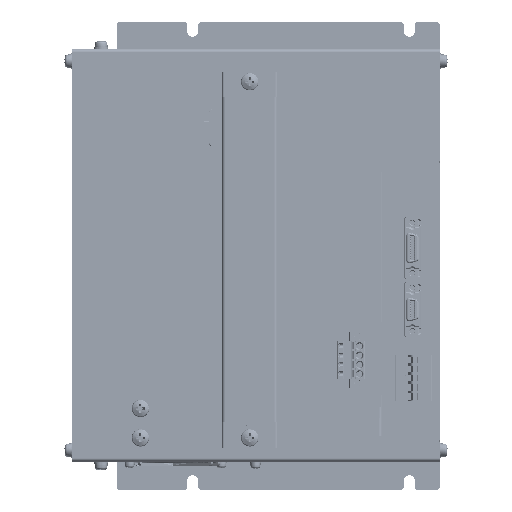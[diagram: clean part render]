
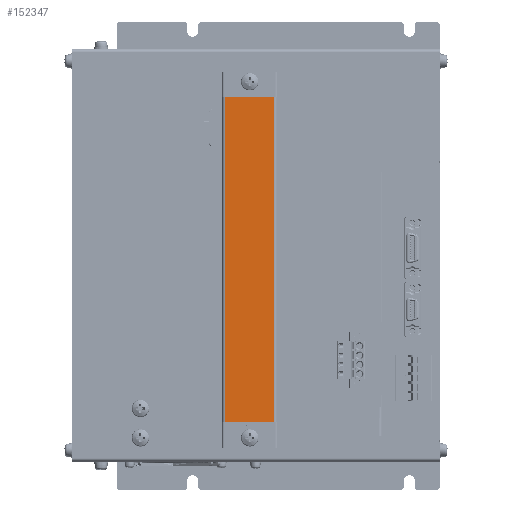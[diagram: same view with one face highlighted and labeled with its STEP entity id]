
A CAD part, top view. The second image highlights one B-rep face of the part: STEP entity #152347.
In plain terms, the highlighted planar face has unit normal (0, 0, 1).
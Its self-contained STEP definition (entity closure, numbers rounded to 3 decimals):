
#17048 = PLANE ( 'NONE',  #319904 ) ;
#23525 = EDGE_CURVE ( 'NONE', #112478, #196152, #185572, .T. ) ;
#23837 = VECTOR ( 'NONE', #257212, 1000. ) ;
#27451 = CARTESIAN_POINT ( 'NONE',  ( -125.725, -75.562, 394. ) ) ;
#34592 = CARTESIAN_POINT ( 'NONE',  ( -125.725, 101.438, 394. ) ) ;
#45701 = FACE_OUTER_BOUND ( 'NONE', #318922, .T. ) ;
#55169 = CARTESIAN_POINT ( 'NONE',  ( -125.725, -75.562, 394. ) ) ;
#58136 = ORIENTED_EDGE ( 'NONE', *, *, #230874, .T. ) ;
#64421 = VECTOR ( 'NONE', #328931, 1000. ) ;
#68715 = CARTESIAN_POINT ( 'NONE',  ( -98.925, -75.562, 394. ) ) ;
#80962 = CARTESIAN_POINT ( 'NONE',  ( -98.925, -75.562, 394. ) ) ;
#104559 = VECTOR ( 'NONE', #283876, 1000. ) ;
#112478 = VERTEX_POINT ( 'NONE', #34592 ) ;
#122707 = ORIENTED_EDGE ( 'NONE', *, *, #23525, .T. ) ;
#134571 = LINE ( 'NONE', #291006, #23837 ) ;
#152347 = ADVANCED_FACE ( 'NONE', ( #45701 ), #17048, .T. ) ;
#156579 = DIRECTION ( 'NONE',  ( 0., 1., 0. ) ) ;
#185572 = LINE ( 'NONE', #27451, #64421 ) ;
#196152 = VERTEX_POINT ( 'NONE', #55169 ) ;
#212227 = EDGE_CURVE ( 'NONE', #408228, #345534, #314781, .T. ) ;
#217196 = EDGE_CURVE ( 'NONE', #196152, #408228, #346692, .T. ) ;
#222580 = CARTESIAN_POINT ( 'NONE',  ( -98.925, -75.562, 394. ) ) ;
#230874 = EDGE_CURVE ( 'NONE', #345534, #112478, #134571, .T. ) ;
#251098 = CARTESIAN_POINT ( 'NONE',  ( -98.925, -75.562, 394. ) ) ;
#257212 = DIRECTION ( 'NONE',  ( -1., 0., 0. ) ) ;
#283876 = DIRECTION ( 'NONE',  ( 1., 0., 0. ) ) ;
#291006 = CARTESIAN_POINT ( 'NONE',  ( -98.925, 101.438, 394. ) ) ;
#303787 = VECTOR ( 'NONE', #156579, 1000. ) ;
#314781 = LINE ( 'NONE', #222580, #303787 ) ;
#318922 = EDGE_LOOP ( 'NONE', ( #122707, #421683, #432980, #58136 ) ) ;
#319904 = AXIS2_PLACEMENT_3D ( 'NONE', #251098, #420074, #352386 ) ;
#328931 = DIRECTION ( 'NONE',  ( 0., -1., 0. ) ) ;
#345534 = VERTEX_POINT ( 'NONE', #345760 ) ;
#345760 = CARTESIAN_POINT ( 'NONE',  ( -98.925, 101.438, 394. ) ) ;
#346692 = LINE ( 'NONE', #80962, #104559 ) ;
#352386 = DIRECTION ( 'NONE',  ( 0., -1., 0. ) ) ;
#408228 = VERTEX_POINT ( 'NONE', #68715 ) ;
#420074 = DIRECTION ( 'NONE',  ( 0., 0., 1. ) ) ;
#421683 = ORIENTED_EDGE ( 'NONE', *, *, #217196, .T. ) ;
#432980 = ORIENTED_EDGE ( 'NONE', *, *, #212227, .T. ) ;
